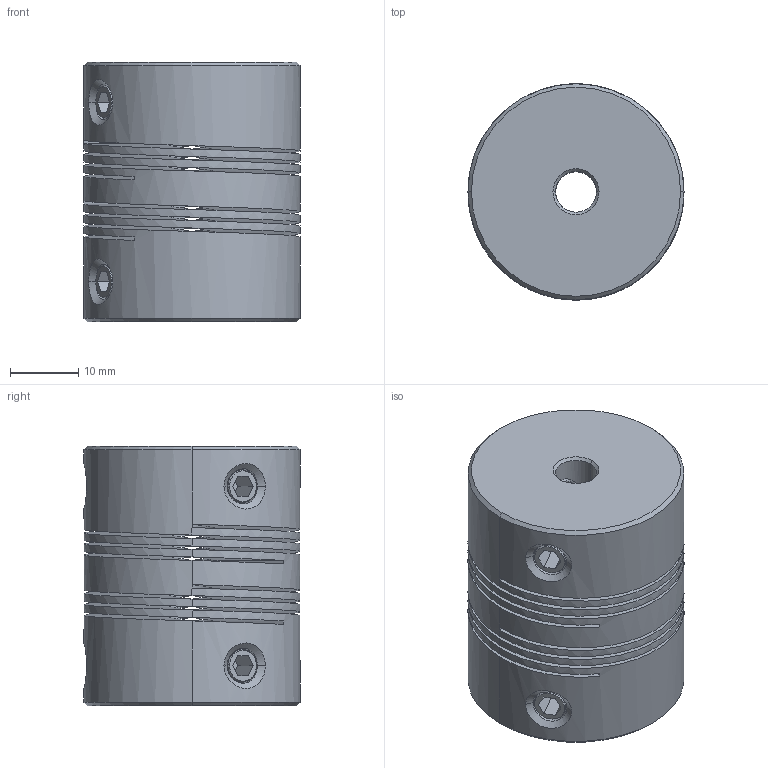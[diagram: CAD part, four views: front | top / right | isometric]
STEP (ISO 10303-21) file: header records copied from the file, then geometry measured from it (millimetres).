
FILE_DESCRIPTION((''),'2;1');
FILE_NAME('PSMR32-6-6-A','2016-09-08T',('SYSTEM'),(''),'PRO/ENGINEER BY PARAMETRIC TECHNOLOGY CORPORATION, 2015110','PRO/ENGINEER BY PARAMETRIC TECHNOLOGY CORPORATION, 2015110','');
FILE_SCHEMA(('AUTOMOTIVE_DESIGN { 1 0 10303 214 1 1 1 1 }'));
Length unit declared in the file: millimetre
Products named in the file (1): PSMR32-6-6-A
Bounding box: 31.75 x 31.75 x 38.1 mm (x, y, z)
Volume: 25748.1 mm3; surface area: 17323.6 mm2
Topology: 5 solids, 5 shells, 138 faces, 346 edges, 212 vertices
Faces by surface type: cylinder 48, plane 46, cone 28, bspline 16
Entity records: 9453 total; most frequent: CARTESIAN_POINT 5205, ORIENTED_EDGE 692, DIRECTION 554, PRESENTATION_STYLE_ASSIGNMENT 351, STYLED_ITEM 351, CURVE_STYLE 346, EDGE_CURVE 346, VERTEX_POINT 212
